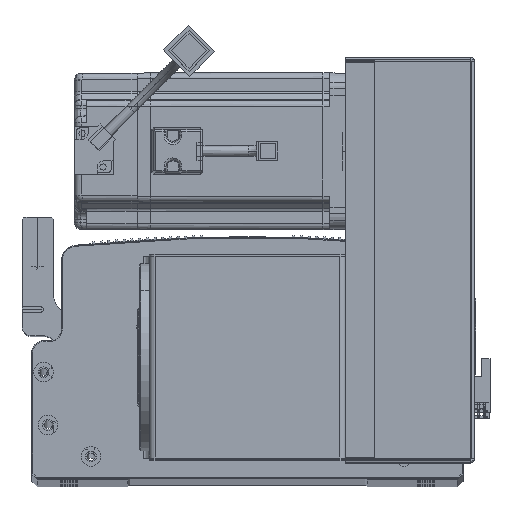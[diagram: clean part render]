
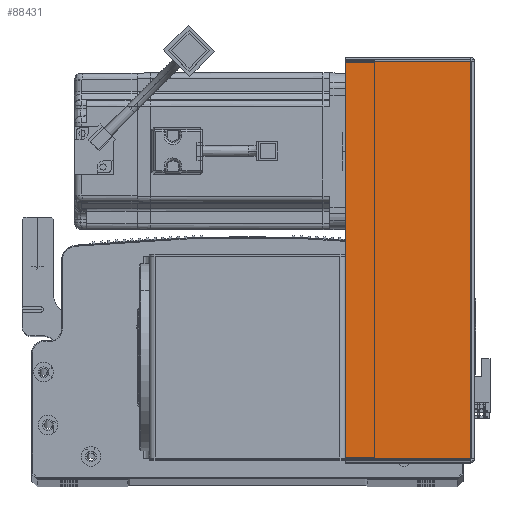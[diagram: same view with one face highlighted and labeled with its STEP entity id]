
A CAD part, top view. The second image highlights one B-rep face of the part: STEP entity #88431.
In plain terms, the highlighted planar face has unit normal (0, 0, 1) as drawn and (0, -1, 0) by its records, which use the part's own axes.
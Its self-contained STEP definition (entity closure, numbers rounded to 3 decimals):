
#1271 = DIRECTION ( 'NONE',  ( 0., 0., 1. ) ) ;
#1494 = CARTESIAN_POINT ( 'NONE',  ( 0., -1.5, -203.293 ) ) ;
#6554 = LINE ( 'NONE', #92169, #41154 ) ;
#7086 = LINE ( 'NONE', #82535, #61701 ) ;
#9556 = EDGE_CURVE ( 'NONE', #55453, #57857, #44550, .T. ) ;
#10432 = VERTEX_POINT ( 'NONE', #15226 ) ;
#11787 = EDGE_LOOP ( 'NONE', ( #74118, #13166, #36645, #60570 ) ) ;
#13166 = ORIENTED_EDGE ( 'NONE', *, *, #44705, .T. ) ;
#15226 = CARTESIAN_POINT ( 'NONE',  ( 0.737, -1.5, -0.707 ) ) ;
#15801 = DIRECTION ( 'NONE',  ( 1., 0., 0. ) ) ;
#18821 = DIRECTION ( 'NONE',  ( -1., 0., 0. ) ) ;
#25627 = CARTESIAN_POINT ( 'NONE',  ( 64.5, -1.5, -0.707 ) ) ;
#26035 = DIRECTION ( 'NONE',  ( 0., 1., 0. ) ) ;
#27534 = EDGE_CURVE ( 'NONE', #10432, #57857, #7086, .T. ) ;
#30861 = CARTESIAN_POINT ( 'NONE',  ( 64.5, -1.5, 0. ) ) ;
#32236 = AXIS2_PLACEMENT_3D ( 'NONE', #75822, #26035, #18821 ) ;
#36645 = ORIENTED_EDGE ( 'NONE', *, *, #9556, .T. ) ;
#39771 = PLANE ( 'NONE',  #32236 ) ;
#41154 = VECTOR ( 'NONE', #87147, 1000. ) ;
#44550 = LINE ( 'NONE', #30861, #49012 ) ;
#44705 = EDGE_CURVE ( 'NONE', #58363, #55453, #56774, .T. ) ;
#45491 = CARTESIAN_POINT ( 'NONE',  ( 64.5, -1.5, -203.293 ) ) ;
#49012 = VECTOR ( 'NONE', #1271, 1000. ) ;
#55453 = VERTEX_POINT ( 'NONE', #45491 ) ;
#56774 = LINE ( 'NONE', #1494, #61265 ) ;
#57857 = VERTEX_POINT ( 'NONE', #25627 ) ;
#58209 = CARTESIAN_POINT ( 'NONE',  ( 0.737, -1.5, -203.293 ) ) ;
#58363 = VERTEX_POINT ( 'NONE', #58209 ) ;
#60053 = EDGE_CURVE ( 'NONE', #58363, #10432, #6554, .T. ) ;
#60570 = ORIENTED_EDGE ( 'NONE', *, *, #27534, .F. ) ;
#61265 = VECTOR ( 'NONE', #15801, 1000. ) ;
#61701 = VECTOR ( 'NONE', #90327, 1000. ) ;
#74118 = ORIENTED_EDGE ( 'NONE', *, *, #60053, .F. ) ;
#75822 = CARTESIAN_POINT ( 'NONE',  ( 0., -1.5, 0. ) ) ;
#82535 = CARTESIAN_POINT ( 'NONE',  ( 0., -1.5, -0.707 ) ) ;
#84792 = FACE_OUTER_BOUND ( 'NONE', #11787, .T. ) ;
#87147 = DIRECTION ( 'NONE',  ( 0., 0., 1. ) ) ;
#88431 = ADVANCED_FACE ( 'NONE', ( #84792 ), #39771, .F. ) ;
#90327 = DIRECTION ( 'NONE',  ( 1., 0., 0. ) ) ;
#92169 = CARTESIAN_POINT ( 'NONE',  ( 0.737, -1.5, 0. ) ) ;
